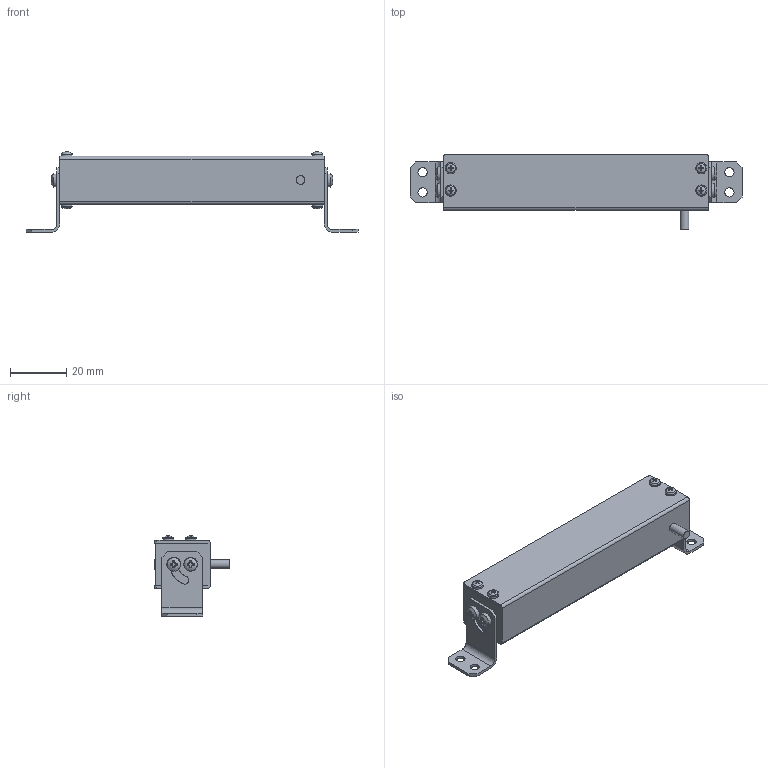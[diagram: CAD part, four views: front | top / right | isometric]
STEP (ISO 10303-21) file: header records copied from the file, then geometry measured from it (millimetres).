
FILE_DESCRIPTION(/* description */ (''),/* implementation_level */ '2;1');
FILE_NAME(/* name */ 'C:\#Vault-WorkDir\Konstruktions-Dokumente\Projekte\Zubehör allgemein\Falcon Beleuchtungen\153-13703_LB 86 xD-24-KFL5.stp',/* time_stamp */ '2022-03-22T11:42:33+01:00',/* author */ ('SensoPart'),/* organization */ ('SensoPart'),/* preprocessor_version */ 'ST-DEVELOPER v18.1',/* originating_system */ 'Autodesk Inventor 2022',/* authorisation */ '');
FILE_SCHEMA (('AUTOMOTIVE_DESIGN { 1 0 10303 214 3 1 1 }'));
Length unit declared in the file: millimetre
Products named in the file (1): GH-ENG-0026535_Vereinfachen_1
Bounding box: 118.5 x 27 x 28.69 mm (x, y, z)
Volume: 33008.5 mm3; surface area: 11784.8 mm2
Topology: 7 solids, 7 shells, 562 faces, 1565 edges, 1041 vertices
Faces by surface type: plane 213, cone 162, cylinder 123, torus 52, sphere 12
Full cylindrical faces by diameter (mm): 2 x8, 2.275 x4, 2.5 x8, 2.8 x2, 3.1 x1, 3.3 x4, 3.8 x2
Entity records: 20096 total; most frequent: CARTESIAN_POINT 5065, ORIENTED_EDGE 3110, DIRECTION 3043, EDGE_CURVE 1555, AXIS2_PLACEMENT_3D 1227, VERTEX_POINT 1040, CIRCLE 648, EDGE_LOOP 627
